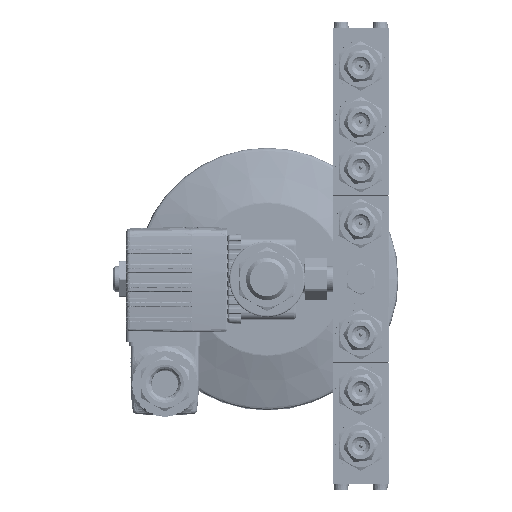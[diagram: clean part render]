
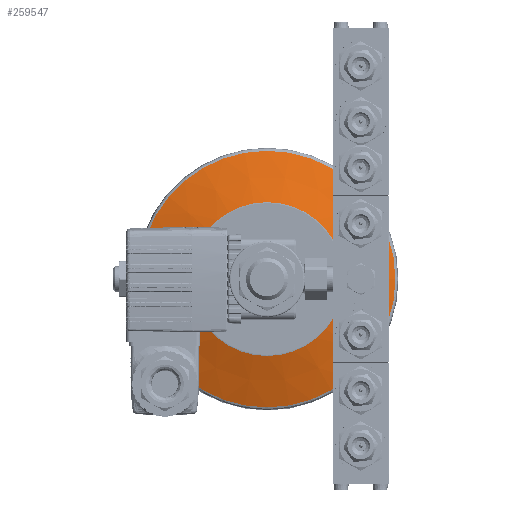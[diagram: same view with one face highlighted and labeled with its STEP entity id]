
A CAD part, left-side view. The second image highlights one B-rep face of the part: STEP entity #259547.
In plain terms, the highlighted conical face has half-angle 72.91 degrees and reference radius 50.726 mm.
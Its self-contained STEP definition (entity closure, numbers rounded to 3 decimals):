
#10353 = EDGE_LOOP ( 'NONE', ( #272957 ) ) ;
#28954 = ORIENTED_EDGE ( 'NONE', *, *, #304634, .F. ) ;
#49529 = AXIS2_PLACEMENT_3D ( 'NONE', #150274, #297046, #73853 ) ;
#54504 = CARTESIAN_POINT ( 'NONE',  ( 79.705, 0., 0. ) ) ;
#73853 = DIRECTION ( 'NONE',  ( 0., -1., 0. ) ) ;
#108781 = CIRCLE ( 'NONE', #290849, 50.726 ) ;
#111264 = CONICAL_SURFACE ( 'NONE', #204649, 50.726, 1.273 ) ;
#112708 = CARTESIAN_POINT ( 'NONE',  ( 79.705, 0., 0. ) ) ;
#138659 = DIRECTION ( 'NONE',  ( 1., 0., 0. ) ) ;
#150274 = CARTESIAN_POINT ( 'NONE',  ( 73.464, 0., 0. ) ) ;
#150791 = CARTESIAN_POINT ( 'NONE',  ( 79.705, 50.726, 0. ) ) ;
#157004 = FACE_BOUND ( 'NONE', #10353, .T. ) ;
#157202 = VERTEX_POINT ( 'NONE', #150791 ) ;
#159185 = VERTEX_POINT ( 'NONE', #211340 ) ;
#164784 = EDGE_LOOP ( 'NONE', ( #28954 ) ) ;
#176643 = FACE_OUTER_BOUND ( 'NONE', #164784, .T. ) ;
#204649 = AXIS2_PLACEMENT_3D ( 'NONE', #54504, #230377, #225579 ) ;
#211340 = CARTESIAN_POINT ( 'NONE',  ( 73.464, -30.426, 0. ) ) ;
#212052 = DIRECTION ( 'NONE',  ( 0., 1., 0. ) ) ;
#225579 = DIRECTION ( 'NONE',  ( 0., 0., -1. ) ) ;
#230377 = DIRECTION ( 'NONE',  ( 1., 0., 0. ) ) ;
#232374 = EDGE_CURVE ( 'NONE', #159185, #159185, #247163, .T. ) ;
#247163 = CIRCLE ( 'NONE', #49529, 30.426 ) ;
#259547 = ADVANCED_FACE ( 'NONE', ( #157004, #176643 ), #111264, .T. ) ;
#272957 = ORIENTED_EDGE ( 'NONE', *, *, #232374, .T. ) ;
#290849 = AXIS2_PLACEMENT_3D ( 'NONE', #112708, #138659, #212052 ) ;
#297046 = DIRECTION ( 'NONE',  ( 1., 0., 0. ) ) ;
#304634 = EDGE_CURVE ( 'NONE', #157202, #157202, #108781, .T. ) ;
